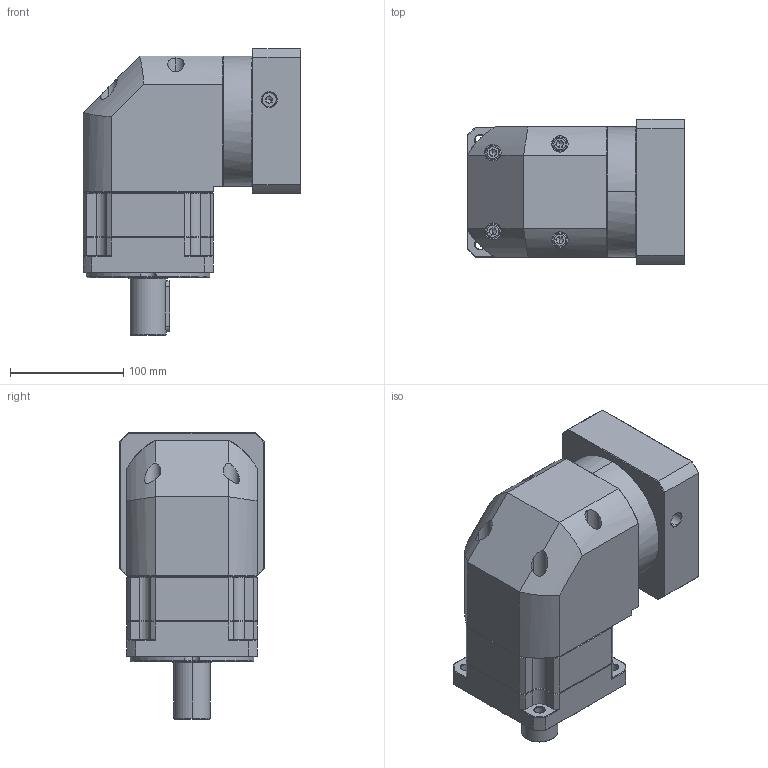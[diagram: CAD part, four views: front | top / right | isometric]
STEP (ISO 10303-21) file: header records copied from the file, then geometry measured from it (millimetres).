
FILE_DESCRIPTION (( 'STEP AP214' ), '1' );
FILE_NAME ('ZBR115A-D32-L1-P2-22-110-145-M8.step', '2023-08-26T12:36:37', ( '' ), ( '' ), 'SwSTEP 2.0', 'SolidWorks 2016', '' );
FILE_SCHEMA (( 'AUTOMOTIVE_DESIGN' ));
Length unit declared in the file: millimetre
Products named in the file (1): ZBR115A-D32-L1-P2-22-110-145-M8
Bounding box: 192.4 x 128 x 253 mm (x, y, z)
Volume: 3056679.2 mm3; surface area: 254923.8 mm2
Topology: 6 solids, 6 shells, 2381 faces, 6235 edges, 3958 vertices
Faces by surface type: plane 1139, cylinder 439, bspline 425, cone 370, torus 8
Entity records: 128381 total; most frequent: CARTESIAN_POINT 47227, ORIENTED_EDGE 12410, DIRECTION 9785, EDGE_CURVE 6205, VECTOR 3991, LINE 3991, VERTEX_POINT 3958, AXIS2_PLACEMENT_3D 2897
